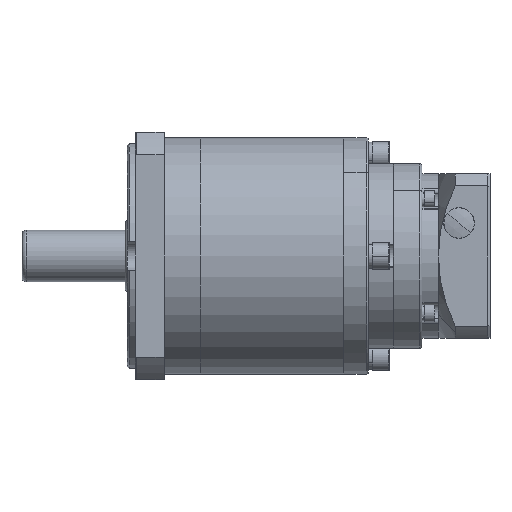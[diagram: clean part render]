
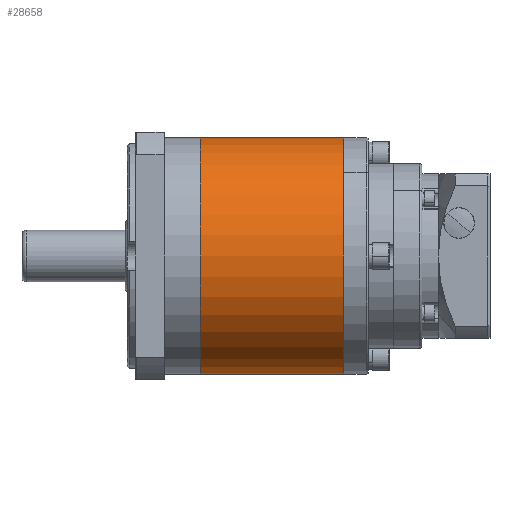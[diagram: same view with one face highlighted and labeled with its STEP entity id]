
A CAD part, front view. The second image highlights one B-rep face of the part: STEP entity #28658.
In plain terms, the highlighted cylindrical face has radius 57.5 mm (diameter 115 mm), a partial arc.
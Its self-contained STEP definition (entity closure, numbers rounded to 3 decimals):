
#1269 = CARTESIAN_POINT ( 'NONE',  ( 35.5, 0., -57.5 ) ) ;
#1424 = VECTOR ( 'NONE', #14611, 1000. ) ;
#4133 = EDGE_CURVE ( 'NONE', #20304, #31991, #21436, .T. ) ;
#5979 = CARTESIAN_POINT ( 'NONE',  ( 35.5, 0., 0. ) ) ;
#6019 = FACE_OUTER_BOUND ( 'NONE', #19236, .T. ) ;
#7512 = DIRECTION ( 'NONE',  ( 0., 0., 1. ) ) ;
#9670 = VERTEX_POINT ( 'NONE', #33894 ) ;
#14263 = ORIENTED_EDGE ( 'NONE', *, *, #4133, .T. ) ;
#14611 = DIRECTION ( 'NONE',  ( 1., 0., 0. ) ) ;
#16015 = EDGE_CURVE ( 'NONE', #9670, #28620, #30942, .T. ) ;
#17867 = AXIS2_PLACEMENT_3D ( 'NONE', #19300, #51860, #27497 ) ;
#18520 = AXIS2_PLACEMENT_3D ( 'NONE', #31911, #36539, #7512 ) ;
#19193 = EDGE_CURVE ( 'NONE', #28620, #31991, #49203, .T. ) ;
#19236 = EDGE_LOOP ( 'NONE', ( #50523, #29423, #47844, #14263 ) ) ;
#19300 = CARTESIAN_POINT ( 'NONE',  ( 105., 0., 0. ) ) ;
#20304 = VERTEX_POINT ( 'NONE', #25721 ) ;
#21436 = CIRCLE ( 'NONE', #17867, 57.5 ) ;
#25721 = CARTESIAN_POINT ( 'NONE',  ( 105., 0., -57.5 ) ) ;
#27497 = DIRECTION ( 'NONE',  ( 0., 0., 1. ) ) ;
#28620 = VERTEX_POINT ( 'NONE', #49950 ) ;
#28658 = ADVANCED_FACE ( 'NONE', ( #6019 ), #38552, .T. ) ;
#29423 = ORIENTED_EDGE ( 'NONE', *, *, #16015, .F. ) ;
#29657 = CARTESIAN_POINT ( 'NONE',  ( 105., 0., 57.5 ) ) ;
#30398 = VECTOR ( 'NONE', #46118, 1000. ) ;
#30940 = DIRECTION ( 'NONE',  ( 0., 0., -1. ) ) ;
#30942 = CIRCLE ( 'NONE', #18520, 57.5 ) ;
#31911 = CARTESIAN_POINT ( 'NONE',  ( 35.5, 0., 0. ) ) ;
#31991 = VERTEX_POINT ( 'NONE', #29657 ) ;
#33894 = CARTESIAN_POINT ( 'NONE',  ( 35.5, 0., -57.5 ) ) ;
#36539 = DIRECTION ( 'NONE',  ( -1., 0., 0. ) ) ;
#38414 = DIRECTION ( 'NONE',  ( 1., 0., 0. ) ) ;
#38552 = CYLINDRICAL_SURFACE ( 'NONE', #39830, 57.5 ) ;
#38652 = CARTESIAN_POINT ( 'NONE',  ( 35.5, 0., 57.5 ) ) ;
#39830 = AXIS2_PLACEMENT_3D ( 'NONE', #5979, #38414, #30940 ) ;
#45364 = EDGE_CURVE ( 'NONE', #9670, #20304, #50769, .T. ) ;
#46118 = DIRECTION ( 'NONE',  ( 1., 0., 0. ) ) ;
#47844 = ORIENTED_EDGE ( 'NONE', *, *, #45364, .T. ) ;
#49203 = LINE ( 'NONE', #38652, #1424 ) ;
#49950 = CARTESIAN_POINT ( 'NONE',  ( 35.5, 0., 57.5 ) ) ;
#50523 = ORIENTED_EDGE ( 'NONE', *, *, #19193, .F. ) ;
#50769 = LINE ( 'NONE', #1269, #30398 ) ;
#51860 = DIRECTION ( 'NONE',  ( -1., 0., 0. ) ) ;
